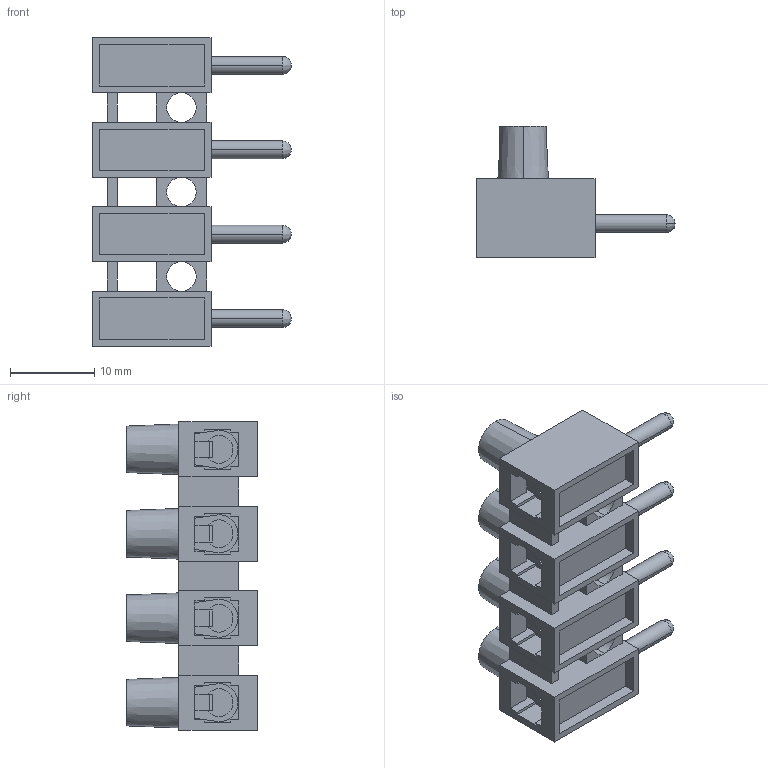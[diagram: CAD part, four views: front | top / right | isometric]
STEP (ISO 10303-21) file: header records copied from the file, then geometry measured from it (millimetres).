
FILE_DESCRIPTION (( 'STEP AP214' ), '1' );
FILE_NAME ('322-SV-DS-04.STEP', '2008-04-15T03:02:02', ( ' ' ), ( '' ), 'SwSTEP 2.0', 'SolidWorks 2007', '' );
FILE_SCHEMA (( 'AUTOMOTIVE_DESIGN' ));
Length unit declared in the file: millimetre
Products named in the file (1): 322-SV-DS-04
Bounding box: 23.5 x 15.5 x 36.5 mm (x, y, z)
Volume: 3524.1 mm3; surface area: 4273.6 mm2
Topology: 1 solids, 1 shells, 428 faces, 1244 edges, 820 vertices
Faces by surface type: plane 250, cylinder 114, cone 36, bspline 28
Entity records: 15481 total; most frequent: CARTESIAN_POINT 4061, ORIENTED_EDGE 2472, DIRECTION 2298, EDGE_CURVE 1236, VERTEX_POINT 820, VECTOR 800, LINE 800, AXIS2_PLACEMENT_3D 749
